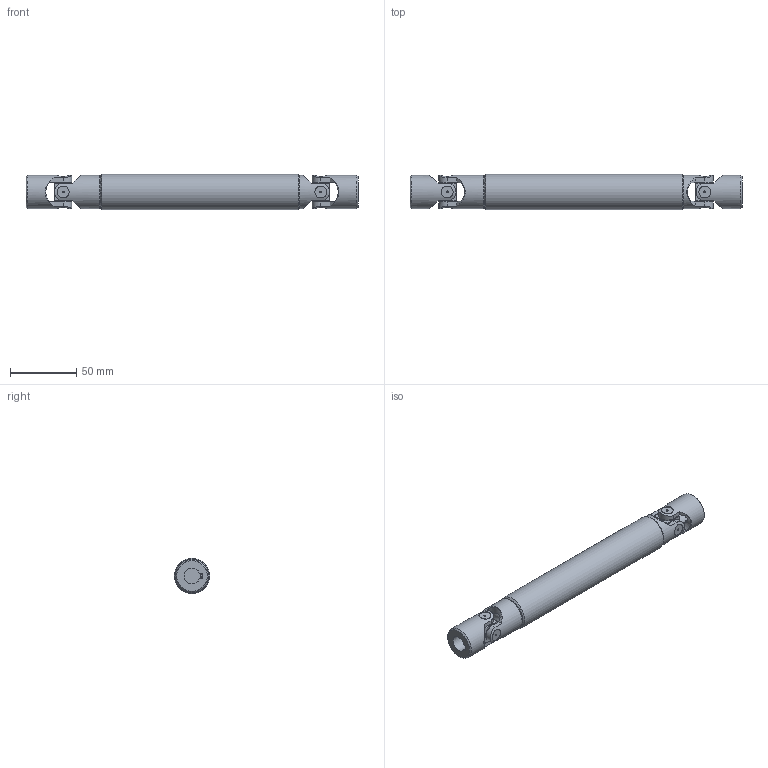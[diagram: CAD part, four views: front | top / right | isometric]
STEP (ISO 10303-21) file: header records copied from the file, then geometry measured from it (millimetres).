
FILE_DESCRIPTION(/* description */ (''),/* implementation_level */ '2;1');
FILE_NAME(/* name */ '\\SRV2016\Societa\Stefano\Disegni 3D\00Catalogo 3D\03Trasmissioni standard GA\!04GA26\!04GA26_SG0A1226.stp',/* time_stamp */ '2022-02-15T10:47:40+01:00',/* author */ ('acquisti'),/* organization */ (''),/* preprocessor_version */ 'ST-DEVELOPER v15.6',/* originating_system */ 'Autodesk Inventor 2015',/* authorisation */ '');
FILE_SCHEMA (('AUTOMOTIVE_DESIGN { 1 0 10303 214 3 1 1 }'));
Length unit declared in the file: millimetre
Products named in the file (5): !04GA26 LCI; !04GA26 LAI; 04G MOC; 04G SFE; !04GA26_SG0A1226
Assembly tree (6 placements, depth 2):
  !04GA26_SG0A1226
    !04GA26 LCI
    !04GA26 LAI
    04G MOC  x2
    04G SFE  x2
Bounding box: 250 x 26.5 x 26.5 mm (x, y, z)
Volume: 97477.5 mm3; surface area: 45980 mm2
Topology: 6 solids, 6 shells, 228 faces, 559 edges, 367 vertices
Faces by surface type: plane 106, cylinder 93, cone 25, torus 4
Full cylindrical faces by diameter (mm): 1.5 x8, 12 x1, 12.5 x8, 13 x2, 21 x1, 25 x4, 26.5 x1
Entity records: 5789 total; most frequent: CARTESIAN_POINT 1679, DIRECTION 823, ORIENTED_EDGE 820, EDGE_CURVE 410, AXIS2_PLACEMENT_3D 335, VERTEX_POINT 286, EDGE_LOOP 224, FACE_OUTER_BOUND 176
